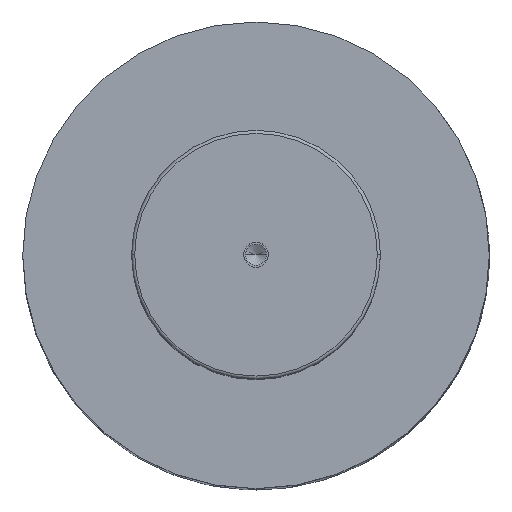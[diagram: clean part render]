
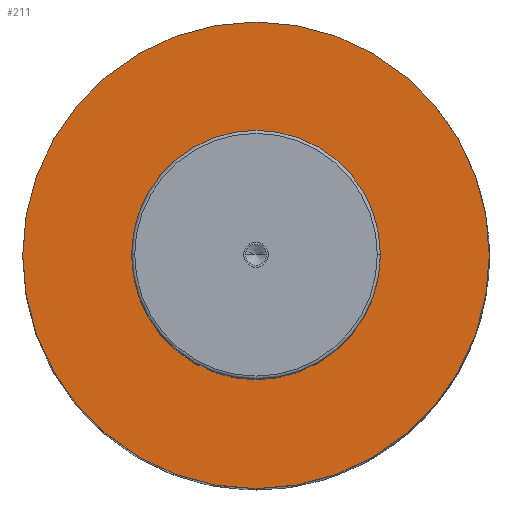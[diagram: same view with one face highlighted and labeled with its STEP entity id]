
A CAD part, top view. The second image highlights one B-rep face of the part: STEP entity #211.
In plain terms, the highlighted planar face has unit normal (0, 0, 1).
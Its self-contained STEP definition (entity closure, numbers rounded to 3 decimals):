
#109=PLANE('',#1266);
#138=FACE_BOUND('',#359,.T.);
#139=FACE_BOUND('',#360,.T.);
#211=ADVANCED_FACE('',(#138,#139),#109,.T.);
#359=EDGE_LOOP('',(#571,#572));
#360=EDGE_LOOP('',(#573,#574));
#451=CIRCLE('',#1260,40.);
#452=CIRCLE('',#1262,40.);
#453=CIRCLE('',#1264,75.);
#454=CIRCLE('',#1265,75.);
#571=ORIENTED_EDGE('',*,*,#970,.F.);
#572=ORIENTED_EDGE('',*,*,#971,.F.);
#573=ORIENTED_EDGE('',*,*,#969,.T.);
#574=ORIENTED_EDGE('',*,*,#967,.T.);
#856=VERTEX_POINT('',#1837);
#857=VERTEX_POINT('',#1839);
#858=VERTEX_POINT('',#1845);
#859=VERTEX_POINT('',#1846);
#967=EDGE_CURVE('',#857,#856,#451,.T.);
#969=EDGE_CURVE('',#856,#857,#452,.T.);
#970=EDGE_CURVE('',#858,#859,#453,.T.);
#971=EDGE_CURVE('',#859,#858,#454,.T.);
#1260=AXIS2_PLACEMENT_3D('',#1838,#1456,#1457);
#1262=AXIS2_PLACEMENT_3D('',#1842,#1461,#1462);
#1264=AXIS2_PLACEMENT_3D('',#1844,#1465,#1466);
#1265=AXIS2_PLACEMENT_3D('',#1847,#1467,#1468);
#1266=AXIS2_PLACEMENT_3D('',#1848,#1469,#1470);
#1456=DIRECTION('',(0.,0.,-1.));
#1457=DIRECTION('',(0.,1.,0.));
#1461=DIRECTION('',(0.,0.,-1.));
#1462=DIRECTION('',(0.,-1.,0.));
#1465=DIRECTION('',(0.,0.,-1.));
#1466=DIRECTION('',(0.,1.,0.));
#1467=DIRECTION('',(0.,0.,-1.));
#1468=DIRECTION('',(0.,-1.,0.));
#1469=DIRECTION('',(0.,0.,1.));
#1470=DIRECTION('',(0.,-1.,0.));
#1837=CARTESIAN_POINT('',(-40.,0.,252.));
#1838=CARTESIAN_POINT('',(0.,0.,252.));
#1839=CARTESIAN_POINT('',(40.,0.,252.));
#1842=CARTESIAN_POINT('',(0.,0.,252.));
#1844=CARTESIAN_POINT('',(0.,0.,252.));
#1845=CARTESIAN_POINT('',(75.,0.,252.));
#1846=CARTESIAN_POINT('',(-75.,0.,252.));
#1847=CARTESIAN_POINT('',(0.,0.,252.));
#1848=CARTESIAN_POINT('',(0.,0.,252.));
